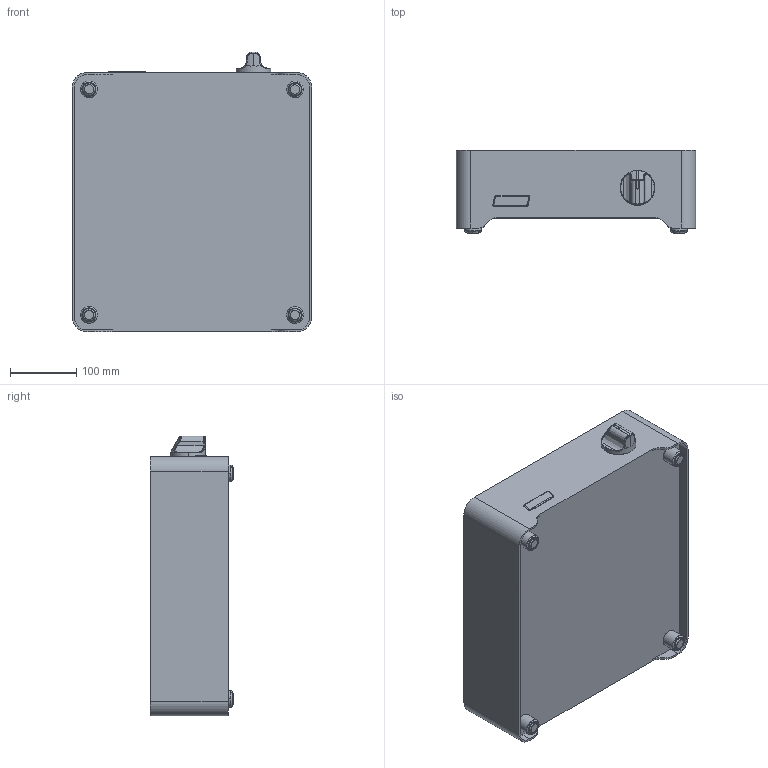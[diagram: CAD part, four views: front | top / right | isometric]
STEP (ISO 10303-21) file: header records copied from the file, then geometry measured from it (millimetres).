
FILE_DESCRIPTION (( 'STEP AP214' ), '1' );
FILE_NAME ('SINAone.STEP', '2015-08-05T09:29:24', ( 'T. Weiss' ), ( 'Menusystem AG' ), 'SwSTEP 2.0', 'SolidWorks 2012', '' );
FILE_SCHEMA (( 'AUTOMOTIVE_DESIGN' ));
Products named in the file (1): SINAone
Bounding box: 360 x 124.9 x 420.6 mm (x, y, z)
Volume: 14254552.9 mm3; surface area: 490884.1 mm2
Topology: 1 solids, 7 shells, 292 faces, 749 edges, 495 vertices
Faces by surface type: bspline 98, cylinder 94, plane 90, cone 10
Entity records: 43445 total; most frequent: CARTESIAN_POINT 37314, ORIENTED_EDGE 1494, DIRECTION 881, EDGE_CURVE 747, VERTEX_POINT 495, B_SPLINE_CURVE_WITH_KNOTS 381, AXIS2_PLACEMENT_3D 336, EDGE_LOOP 318
